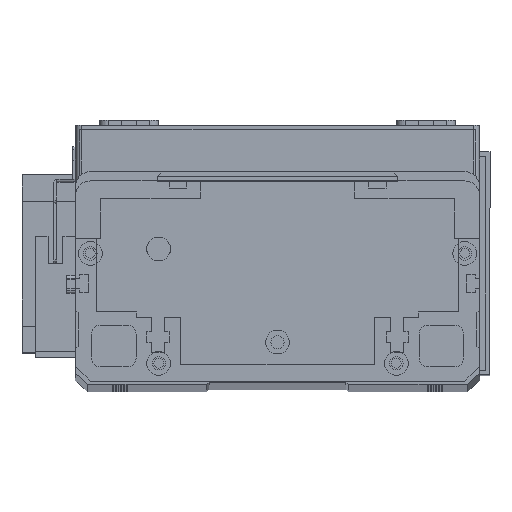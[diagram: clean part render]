
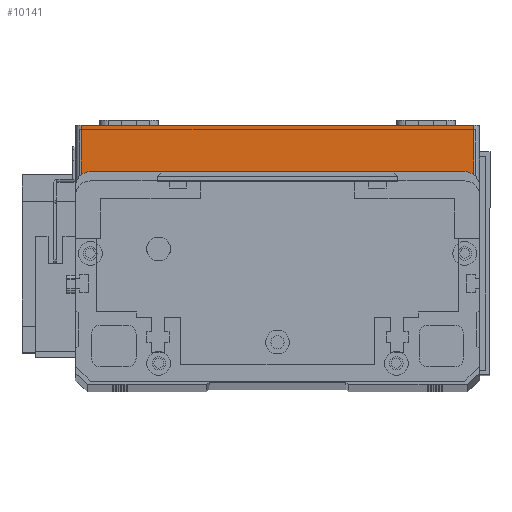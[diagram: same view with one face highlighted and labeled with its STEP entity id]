
A CAD part, top view. The second image highlights one B-rep face of the part: STEP entity #10141.
In plain terms, the highlighted planar face has unit normal (0, 0, 1) as drawn and (0, -1, 0) by its records, which use the part's own axes.
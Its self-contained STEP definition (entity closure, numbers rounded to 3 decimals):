
#1206 = VECTOR ( 'NONE', #17139, 1000. ) ;
#1218 = DIRECTION ( 'NONE',  ( 0., 0., -1. ) ) ;
#1264 = VECTOR ( 'NONE', #3431, 1000. ) ;
#1567 = EDGE_CURVE ( 'NONE', #4755, #24631, #13503, .T. ) ;
#3431 = DIRECTION ( 'NONE',  ( 1., 0., 0. ) ) ;
#4262 = EDGE_CURVE ( 'NONE', #17634, #4755, #7400, .T. ) ;
#4312 = CARTESIAN_POINT ( 'NONE',  ( 0., 0., 0. ) ) ;
#4755 = VERTEX_POINT ( 'NONE', #14816 ) ;
#5244 = VECTOR ( 'NONE', #28644, 1000. ) ;
#5682 = ORIENTED_EDGE ( 'NONE', *, *, #4262, .T. ) ;
#5776 = CARTESIAN_POINT ( 'NONE',  ( 2., 0., 19.5 ) ) ;
#6738 = CARTESIAN_POINT ( 'NONE',  ( 2., 0., 19.5 ) ) ;
#7153 = AXIS2_PLACEMENT_3D ( 'NONE', #24676, #24397, #24365 ) ;
#7400 = LINE ( 'NONE', #4312, #1264 ) ;
#7938 = VERTEX_POINT ( 'NONE', #6738 ) ;
#9735 = CARTESIAN_POINT ( 'NONE',  ( 2., 0., 0. ) ) ;
#9824 = ORIENTED_EDGE ( 'NONE', *, *, #1567, .T. ) ;
#10141 = ADVANCED_FACE ( 'NONE', ( #25117 ), #24447, .F. ) ;
#10415 = LINE ( 'NONE', #5776, #21913 ) ;
#10605 = CARTESIAN_POINT ( 'NONE',  ( 134., 0., 19.5 ) ) ;
#12110 = LINE ( 'NONE', #19676, #5244 ) ;
#13454 = ORIENTED_EDGE ( 'NONE', *, *, #19810, .F. ) ;
#13503 = LINE ( 'NONE', #15272, #1206 ) ;
#14816 = CARTESIAN_POINT ( 'NONE',  ( 134., 0., 0. ) ) ;
#15272 = CARTESIAN_POINT ( 'NONE',  ( 134., 0., 19.5 ) ) ;
#17139 = DIRECTION ( 'NONE',  ( 0., 0., 1. ) ) ;
#17634 = VERTEX_POINT ( 'NONE', #9735 ) ;
#19676 = CARTESIAN_POINT ( 'NONE',  ( 0., 0., 19.5 ) ) ;
#19810 = EDGE_CURVE ( 'NONE', #7938, #24631, #12110, .T. ) ;
#21913 = VECTOR ( 'NONE', #1218, 1000. ) ;
#22301 = EDGE_LOOP ( 'NONE', ( #13454, #27295, #5682, #9824 ) ) ;
#24365 = DIRECTION ( 'NONE',  ( 0., 0., 1. ) ) ;
#24397 = DIRECTION ( 'NONE',  ( 0., 1., 0. ) ) ;
#24447 = PLANE ( 'NONE',  #7153 ) ;
#24631 = VERTEX_POINT ( 'NONE', #10605 ) ;
#24676 = CARTESIAN_POINT ( 'NONE',  ( 0., 0., 19.5 ) ) ;
#25117 = FACE_OUTER_BOUND ( 'NONE', #22301, .T. ) ;
#27295 = ORIENTED_EDGE ( 'NONE', *, *, #29317, .T. ) ;
#28644 = DIRECTION ( 'NONE',  ( 1., 0., 0. ) ) ;
#29317 = EDGE_CURVE ( 'NONE', #7938, #17634, #10415, .T. ) ;
